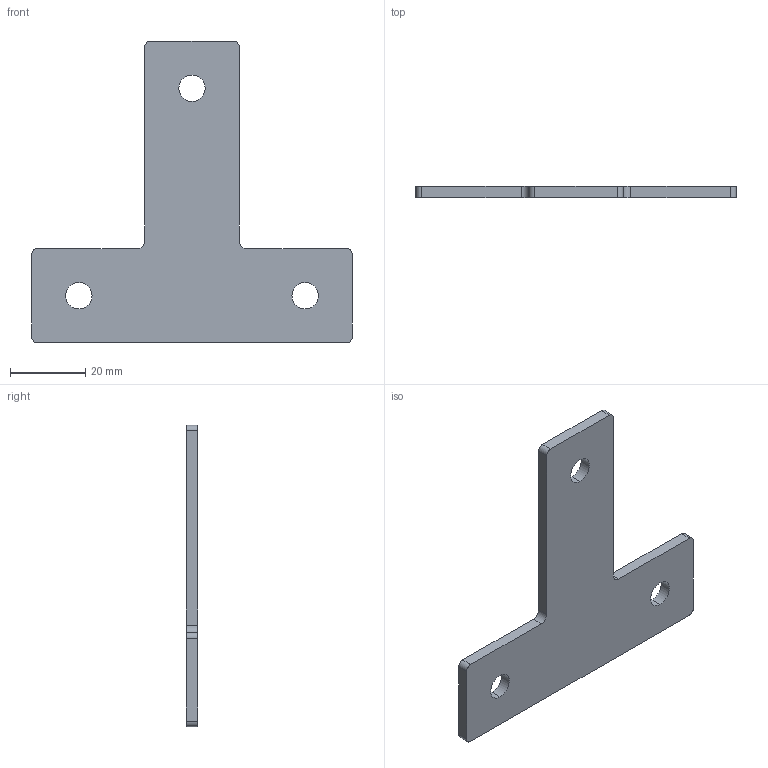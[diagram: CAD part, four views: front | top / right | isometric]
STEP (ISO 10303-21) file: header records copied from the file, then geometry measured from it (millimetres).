
FILE_DESCRIPTION (( 'STEP AP203' ), '1' );
FILE_NAME ('DSB2585-6.STEP', '2020-03-12T01:58:45', ( '' ), ( '' ), 'SwSTEP 2.0', 'SolidWorks 2017', '' );
FILE_SCHEMA (( 'CONFIG_CONTROL_DESIGN' ));
Length unit declared in the file: millimetre
Products named in the file (1): DSB2585-6
Bounding box: 85 x 3 x 80 mm (x, y, z)
Volume: 10150.1 mm3; surface area: 7937.9 mm2
Topology: 1 solids, 1 shells, 24 faces, 66 edges, 44 vertices
Faces by surface type: cylinder 14, plane 10
Entity records: 867 total; most frequent: DIRECTION 144, CARTESIAN_POINT 135, ORIENTED_EDGE 132, EDGE_CURVE 66, AXIS2_PLACEMENT_3D 53, VERTEX_POINT 44, LINE 38, VECTOR 38
